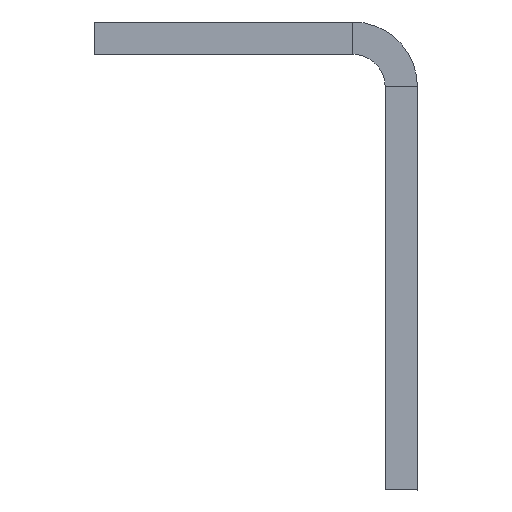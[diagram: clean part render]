
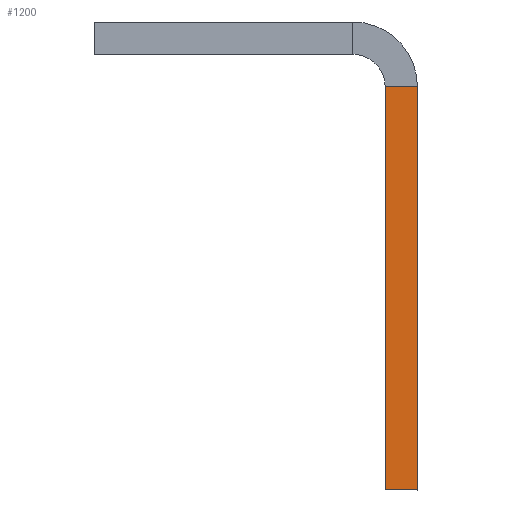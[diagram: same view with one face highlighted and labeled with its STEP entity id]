
A CAD part, left-side view. The second image highlights one B-rep face of the part: STEP entity #1200.
In plain terms, the highlighted planar face has unit normal (-1, 0, 0).
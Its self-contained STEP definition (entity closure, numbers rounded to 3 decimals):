
#126 = CARTESIAN_POINT ( 'NONE',  ( -278.5, 2., -29. ) ) ;
#129 = VECTOR ( 'NONE', #476, 1000. ) ;
#185 = DIRECTION ( 'NONE',  ( -1., 0., 0. ) ) ;
#259 = LINE ( 'NONE', #798, #1406 ) ;
#309 = LINE ( 'NONE', #1272, #129 ) ;
#337 = CARTESIAN_POINT ( 'NONE',  ( -278.5, 0., -4. ) ) ;
#353 = LINE ( 'NONE', #839, #1090 ) ;
#414 = ORIENTED_EDGE ( 'NONE', *, *, #566, .F. ) ;
#422 = FACE_OUTER_BOUND ( 'NONE', #930, .T. ) ;
#432 = CARTESIAN_POINT ( 'NONE',  ( -278.5, 4., -2. ) ) ;
#449 = VERTEX_POINT ( 'NONE', #126 ) ;
#476 = DIRECTION ( 'NONE',  ( 0., 1., 0. ) ) ;
#516 = DIRECTION ( 'NONE',  ( 0., -1., 0. ) ) ;
#538 = VECTOR ( 'NONE', #1311, 1000. ) ;
#551 = ORIENTED_EDGE ( 'NONE', *, *, #987, .T. ) ;
#555 = PLANE ( 'NONE',  #993 ) ;
#566 = EDGE_CURVE ( 'NONE', #1446, #683, #353, .T. ) ;
#683 = VERTEX_POINT ( 'NONE', #1026 ) ;
#716 = CARTESIAN_POINT ( 'NONE',  ( -278.5, 2., -4. ) ) ;
#720 = DIRECTION ( 'NONE',  ( 0., 0., -1. ) ) ;
#798 = CARTESIAN_POINT ( 'NONE',  ( -278.5, 2., -29. ) ) ;
#812 = CARTESIAN_POINT ( 'NONE',  ( -278.5, 2., 0. ) ) ;
#838 = EDGE_CURVE ( 'NONE', #449, #683, #259, .T. ) ;
#839 = CARTESIAN_POINT ( 'NONE',  ( -278.5, 0., 0. ) ) ;
#870 = EDGE_CURVE ( 'NONE', #1446, #1262, #309, .T. ) ;
#930 = EDGE_LOOP ( 'NONE', ( #414, #1174, #551, #966 ) ) ;
#950 = DIRECTION ( 'NONE',  ( 0., 0., 1. ) ) ;
#966 = ORIENTED_EDGE ( 'NONE', *, *, #838, .T. ) ;
#987 = EDGE_CURVE ( 'NONE', #1262, #449, #1039, .T. ) ;
#993 = AXIS2_PLACEMENT_3D ( 'NONE', #432, #185, #950 ) ;
#1026 = CARTESIAN_POINT ( 'NONE',  ( -278.5, 0., -29. ) ) ;
#1039 = LINE ( 'NONE', #812, #538 ) ;
#1090 = VECTOR ( 'NONE', #720, 1000. ) ;
#1174 = ORIENTED_EDGE ( 'NONE', *, *, #870, .T. ) ;
#1200 = ADVANCED_FACE ( 'NONE', ( #422 ), #555, .T. ) ;
#1262 = VERTEX_POINT ( 'NONE', #716 ) ;
#1272 = CARTESIAN_POINT ( 'NONE',  ( -278.5, 0., -4. ) ) ;
#1311 = DIRECTION ( 'NONE',  ( 0., 0., -1. ) ) ;
#1406 = VECTOR ( 'NONE', #516, 1000. ) ;
#1446 = VERTEX_POINT ( 'NONE', #337 ) ;
